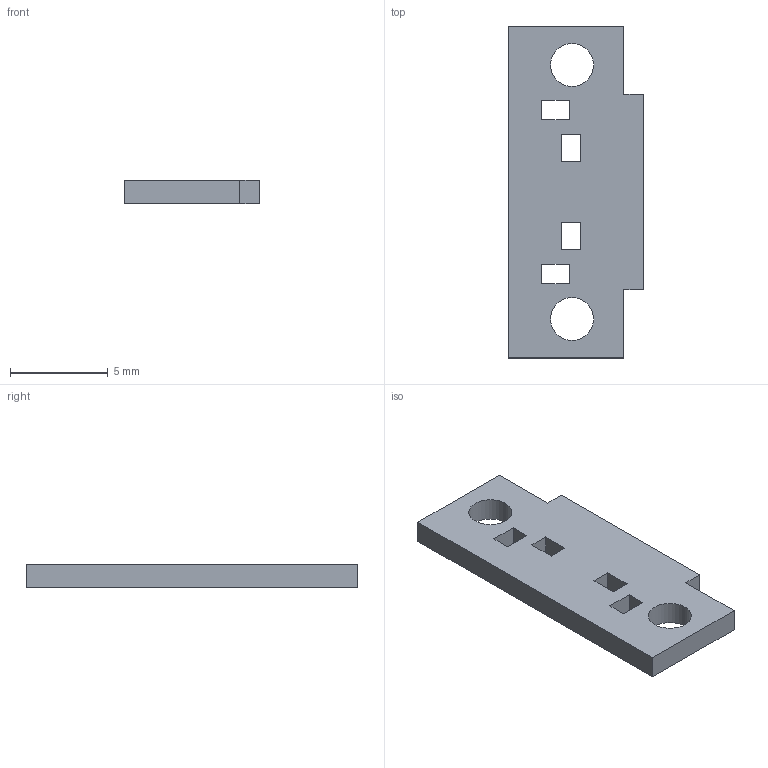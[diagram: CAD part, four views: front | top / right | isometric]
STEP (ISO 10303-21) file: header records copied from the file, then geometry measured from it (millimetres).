
FILE_DESCRIPTION(('Open CASCADE Model'),'2;1');
FILE_NAME('Open CASCADE Shape Model','2026-09-08T16:17:05',('Author'),( 'Open CASCADE'),'Open CASCADE STEP processor 7.7','Open CASCADE 7.7' ,'Unknown');
FILE_SCHEMA(('AUTOMOTIVE_DESIGN { 1 0 10303 214 1 1 1 1 }'));
Length unit declared in the file: millimetre
Products named in the file (1): Open CASCADE STEP translator 7.7 33
Bounding box: 6.9 x 17 x 1.2 mm (x, y, z)
Volume: 116.5 mm3; surface area: 291.2 mm2
Topology: 1 solids, 1 shells, 28 faces, 78 edges, 52 vertices
Faces by surface type: plane 26, cylinder 2
Full cylindrical faces by diameter (mm): 2.2 x2
Entity records: 1934 total; most frequent: CARTESIAN_POINT 315, DIRECTION 296, LINE 226, VECTOR 226, ORIENTED_EDGE 156, PCURVE 156, DEFINITIONAL_REPRESENTATION 156, EDGE_CURVE 78
